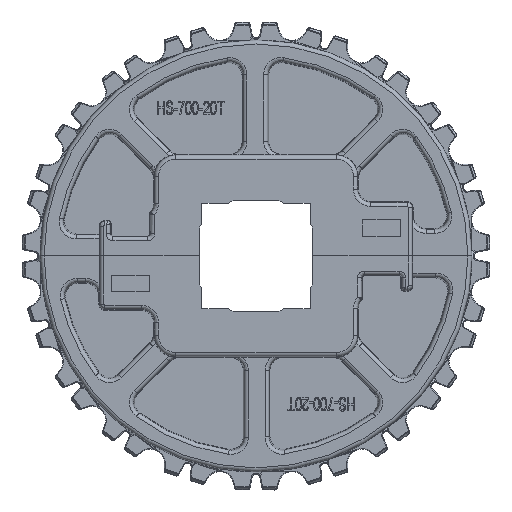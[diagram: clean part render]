
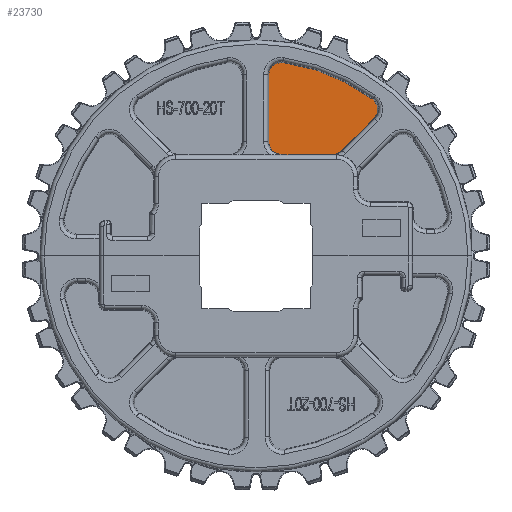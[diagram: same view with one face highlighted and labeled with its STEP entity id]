
A CAD part, top view. The second image highlights one B-rep face of the part: STEP entity #23730.
In plain terms, the highlighted planar face has unit normal (0, 0, 1).
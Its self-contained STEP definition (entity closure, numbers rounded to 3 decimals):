
#19727=ELLIPSE('',#59795,5.02,5.);
#19728=ELLIPSE('',#59796,5.029,5.);
#21301=FACE_OUTER_BOUND('',#27008,.T.);
#23730=ADVANCED_FACE('',(#21301),#25453,.T.);
#25453=PLANE('',#59797);
#27008=EDGE_LOOP('',(#36178,#36179,#36180,#36181,#36182,#36183,#36184,#36185));
#28934=B_SPLINE_CURVE_WITH_KNOTS('',3,(#85250,#85251,#85252,#85253,#85254,
#85255),.UNSPECIFIED.,.F.,.F.,(4,2,4),(0.,0.5,1.),.UNSPECIFIED.);
#28935=B_SPLINE_CURVE_WITH_KNOTS('',3,(#85256,#85257,#85258,#85259,#85260,
#85261),.UNSPECIFIED.,.F.,.F.,(4,2,4),(0.,0.5,1.),.UNSPECIFIED.);
#29902=CIRCLE('',#58806,73.089);
#36178=ORIENTED_EDGE('',*,*,#48265,.F.);
#36179=ORIENTED_EDGE('',*,*,#49549,.T.);
#36180=ORIENTED_EDGE('',*,*,#47065,.T.);
#36181=ORIENTED_EDGE('',*,*,#49550,.T.);
#36182=ORIENTED_EDGE('',*,*,#48269,.T.);
#36183=ORIENTED_EDGE('',*,*,#49551,.T.);
#36184=ORIENTED_EDGE('',*,*,#48261,.F.);
#36185=ORIENTED_EDGE('',*,*,#49552,.T.);
#43356=VERTEX_POINT('',#74199);
#43357=VERTEX_POINT('',#74201);
#44117=VERTEX_POINT('',#79552);
#44120=VERTEX_POINT('',#79560);
#44121=VERTEX_POINT('',#79567);
#44124=VERTEX_POINT('',#79572);
#44125=VERTEX_POINT('',#79576);
#44128=VERTEX_POINT('',#79584);
#47065=EDGE_CURVE('',#43357,#43356,#53035,.T.);
#48261=EDGE_CURVE('',#44120,#44117,#29902,.T.);
#48265=EDGE_CURVE('',#44124,#44121,#53526,.T.);
#48269=EDGE_CURVE('',#44125,#44128,#53529,.T.);
#49549=EDGE_CURVE('',#44124,#43357,#19727,.T.);
#49550=EDGE_CURVE('',#43356,#44125,#19728,.T.);
#49551=EDGE_CURVE('',#44128,#44117,#28934,.T.);
#49552=EDGE_CURVE('',#44120,#44121,#28935,.T.);
#53035=LINE('',#74200,#55505);
#53526=LINE('',#79573,#55996);
#53529=LINE('',#79585,#55999);
#55505=VECTOR('',#62632,1.);
#55996=VECTOR('',#64815,1.);
#55999=VECTOR('',#64820,1.);
#58806=AXIS2_PLACEMENT_3D('',#79561,#64809,#64810);
#59795=AXIS2_PLACEMENT_3D('',#85248,#67284,#67285);
#59796=AXIS2_PLACEMENT_3D('',#85249,#67286,#67287);
#59797=AXIS2_PLACEMENT_3D('',#85262,#67288,#67289);
#62632=DIRECTION('',(1.,0.,0.));
#64809=DIRECTION('',(0.,0.,-1.));
#64810=DIRECTION('',(1.,0.,0.));
#64815=DIRECTION('',(0.,1.,0.));
#64820=DIRECTION('',(0.707,0.707,0.));
#67284=DIRECTION('',(0.,0.,1.));
#67285=DIRECTION('',(-0.981,-0.196,0.));
#67286=DIRECTION('',(0.,0.,1.));
#67287=DIRECTION('',(0.987,-0.162,0.));
#67288=DIRECTION('',(0.,0.,1.));
#67289=DIRECTION('',(1.,0.,0.));
#74199=CARTESIAN_POINT('',(28.486,-212.058,2.5));
#74200=CARTESIAN_POINT('',(0.,-212.058,2.5));
#74201=CARTESIAN_POINT('',(9.719,-212.058,2.5));
#79552=CARTESIAN_POINT('',(43.367,-191.168,2.5));
#79560=CARTESIAN_POINT('',(10.397,-177.655,2.5));
#79561=CARTESIAN_POINT('',(0.,-250.,2.5));
#79567=CARTESIAN_POINT('',(4.708,-182.585,2.5));
#79572=CARTESIAN_POINT('',(4.708,-207.065,2.5));
#79573=CARTESIAN_POINT('',(4.708,-250.,2.5));
#79576=CARTESIAN_POINT('',(32.045,-210.587,2.5));
#79584=CARTESIAN_POINT('',(43.934,-198.699,2.5));
#79585=CARTESIAN_POINT('',(-3.684,-246.316,2.5));
#85248=CARTESIAN_POINT('',(9.727,-207.058,2.5));
#85249=CARTESIAN_POINT('',(28.477,-207.058,2.5));
#85250=CARTESIAN_POINT('',(43.934,-198.699,2.5));
#85251=CARTESIAN_POINT('',(44.954,-197.678,2.5));
#85252=CARTESIAN_POINT('',(45.491,-196.221,2.5));
#85253=CARTESIAN_POINT('',(45.277,-193.382,2.5));
#85254=CARTESIAN_POINT('',(44.529,-192.024,2.5));
#85255=CARTESIAN_POINT('',(43.367,-191.168,2.5));
#85256=CARTESIAN_POINT('',(10.397,-177.655,2.5));
#85257=CARTESIAN_POINT('',(8.974,-177.45,2.5));
#85258=CARTESIAN_POINT('',(7.493,-177.889,2.5));
#85259=CARTESIAN_POINT('',(5.352,-179.746,2.5));
#85260=CARTESIAN_POINT('',(4.708,-181.148,2.5));
#85261=CARTESIAN_POINT('',(4.708,-182.585,2.5));
#85262=CARTESIAN_POINT('',(0.,-250.,2.5));
